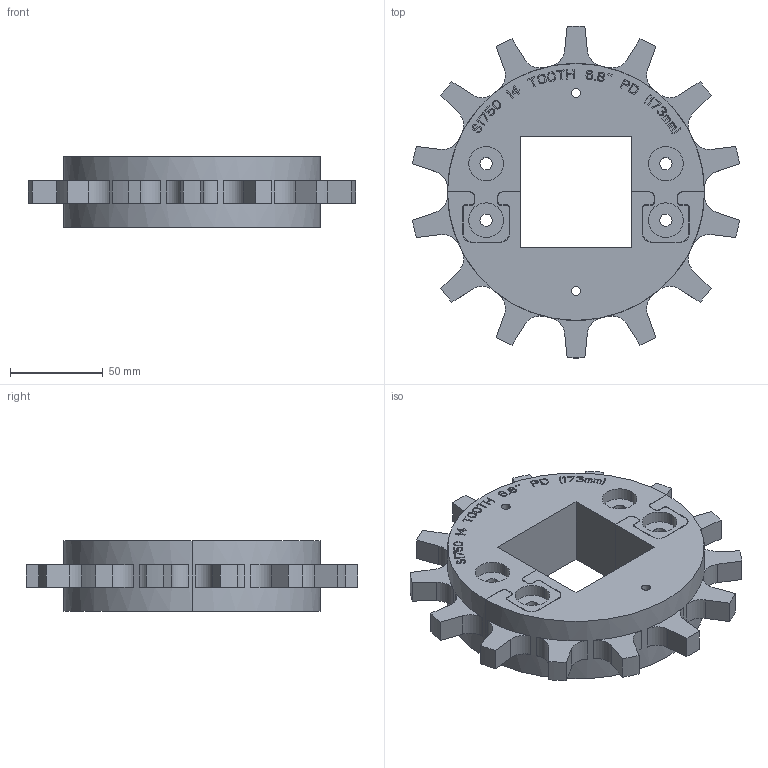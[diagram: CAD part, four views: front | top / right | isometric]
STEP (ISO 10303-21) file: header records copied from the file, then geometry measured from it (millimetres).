
FILE_DESCRIPTION((''),'2;1');
FILE_NAME('S1750_SPLIT_68X15_40_25_60_SQ_ASM','2025-02-03T15:12:43',('rklein'),('INTRALOX'),'CREO PARAMETRIC BY PTC INC, 2019471','CREO PARAMETRIC BY PTC INC, 2019471','');
FILE_SCHEMA(('CONFIG_CONTROL_DESIGN'));
Length unit declared in the file: inch
Products named in the file (3): S1750_SPLIT_68X15_40_25_60_SQ_AF0; S1750_SPLIT_68X15_40_25_60_SQ_AF1; S1750_SPLIT_68X15_40_25_60_SQ_ASM
Assembly tree (2 placements, depth 2):
  S1750_SPLIT_68X15_40_25_60_SQ_ASM
    S1750_SPLIT_68X15_40_25_60_SQ_AF0
    S1750_SPLIT_68X15_40_25_60_SQ_AF1
Bounding box: 176.52 x 179.1 x 38.1 mm (x, y, z)
Volume: 460864.4 mm3; surface area: 89016.4 mm2
Topology: 2 solids, 2 shells, 1656 faces, 4680 edges, 3120 vertices
Faces by surface type: plane 1512, cylinder 144
Entity records: 52894 total; most frequent: CARTESIAN_POINT 9461, ORIENTED_EDGE 9360, DIRECTION 8318, EDGE_CURVE 4680, VECTOR 4364, LINE 4364, VERTEX_POINT 3120, AXIS2_PLACEMENT_3D 1977
